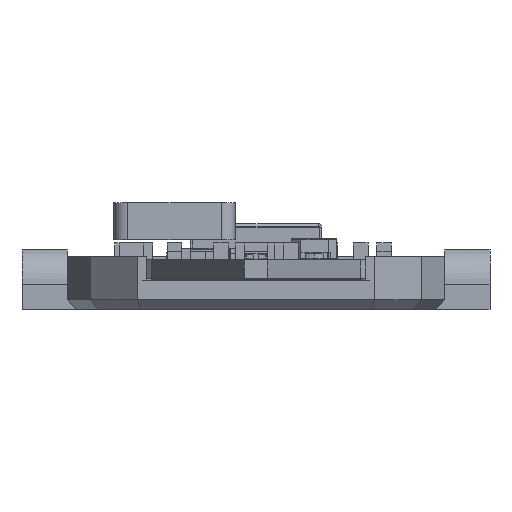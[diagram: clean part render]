
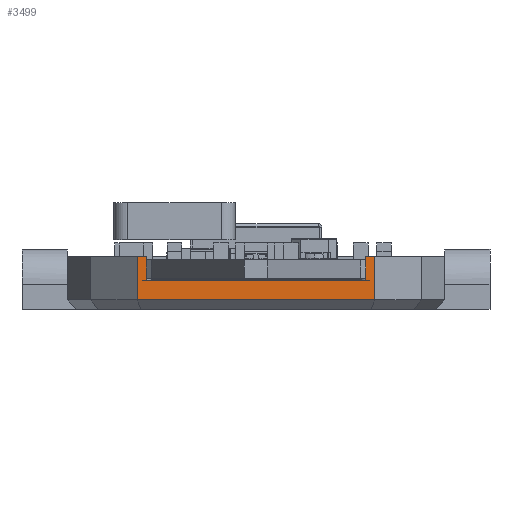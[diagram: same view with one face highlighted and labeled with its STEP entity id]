
A CAD part, front view. The second image highlights one B-rep face of the part: STEP entity #3499.
In plain terms, the highlighted planar face has unit normal (0, -1, 0).
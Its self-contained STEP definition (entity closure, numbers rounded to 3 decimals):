
#380 = PLANE('',#381);
#381 = AXIS2_PLACEMENT_3D('',#382,#383,#384);
#382 = CARTESIAN_POINT('',(-10.2,96.4,-3.85));
#383 = DIRECTION('',(0.,-0.707,-0.707
    ));
#384 = DIRECTION('',(-1.,0.,0.));
#1834 = VERTEX_POINT('',#1835);
#1835 = CARTESIAN_POINT('',(-10.2,96.,-3.45));
#1849 = PLANE('',#1850);
#1850 = AXIS2_PLACEMENT_3D('',#1851,#1852,#1853);
#1851 = CARTESIAN_POINT('',(-14.2,100.,-4.25));
#1852 = DIRECTION('',(0.707,0.707,-0.));
#1853 = DIRECTION('',(0.707,-0.707,0.));
#1887 = EDGE_CURVE('',#1834,#1888,#1890,.T.);
#1888 = VERTEX_POINT('',#1889);
#1889 = CARTESIAN_POINT('',(10.2,96.,-3.45));
#1890 = SURFACE_CURVE('',#1891,(#1895,#1902),.PCURVE_S1.);
#1891 = LINE('',#1892,#1893);
#1892 = CARTESIAN_POINT('',(-10.2,96.,-3.45));
#1893 = VECTOR('',#1894,1.);
#1894 = DIRECTION('',(1.,0.,0.));
#1895 = PCURVE('',#380,#1896);
#1896 = DEFINITIONAL_REPRESENTATION('',(#1897),#1901);
#1897 = LINE('',#1898,#1899);
#1898 = CARTESIAN_POINT('',(-0.,-0.566));
#1899 = VECTOR('',#1900,1.);
#1900 = DIRECTION('',(-1.,0.));
#1901 = ( GEOMETRIC_REPRESENTATION_CONTEXT(2) 
PARAMETRIC_REPRESENTATION_CONTEXT() REPRESENTATION_CONTEXT('2D SPACE',''
  ) );
#1902 = PCURVE('',#1903,#1908);
#1903 = PLANE('',#1904);
#1904 = AXIS2_PLACEMENT_3D('',#1905,#1906,#1907);
#1905 = CARTESIAN_POINT('',(-10.2,96.,-4.25));
#1906 = DIRECTION('',(0.,1.,0.));
#1907 = DIRECTION('',(1.,0.,0.));
#1908 = DEFINITIONAL_REPRESENTATION('',(#1909),#1913);
#1909 = LINE('',#1910,#1911);
#1910 = CARTESIAN_POINT('',(0.,-0.8));
#1911 = VECTOR('',#1912,1.);
#1912 = DIRECTION('',(1.,0.));
#1913 = ( GEOMETRIC_REPRESENTATION_CONTEXT(2) 
PARAMETRIC_REPRESENTATION_CONTEXT() REPRESENTATION_CONTEXT('2D SPACE',''
  ) );
#1957 = PLANE('',#1958);
#1958 = AXIS2_PLACEMENT_3D('',#1959,#1960,#1961);
#1959 = CARTESIAN_POINT('',(10.2,96.,-4.25));
#1960 = DIRECTION('',(-0.707,0.707,0.));
#1961 = DIRECTION('',(0.707,0.707,0.));
#2945 = PLANE('',#2946);
#2946 = AXIS2_PLACEMENT_3D('',#2947,#2948,#2949);
#2947 = CARTESIAN_POINT('',(0.,121.255,0.25));
#2948 = DIRECTION('',(0.,0.,1.));
#2949 = DIRECTION('',(1.,0.,-0.));
#3456 = VERTEX_POINT('',#3457);
#3457 = CARTESIAN_POINT('',(-10.2,96.,0.25));
#3478 = EDGE_CURVE('',#1834,#3456,#3479,.T.);
#3479 = SURFACE_CURVE('',#3480,(#3484,#3491),.PCURVE_S1.);
#3480 = LINE('',#3481,#3482);
#3481 = CARTESIAN_POINT('',(-10.2,96.,-4.25));
#3482 = VECTOR('',#3483,1.);
#3483 = DIRECTION('',(0.,0.,1.));
#3484 = PCURVE('',#1849,#3485);
#3485 = DEFINITIONAL_REPRESENTATION('',(#3486),#3490);
#3486 = LINE('',#3487,#3488);
#3487 = CARTESIAN_POINT('',(5.657,0.));
#3488 = VECTOR('',#3489,1.);
#3489 = DIRECTION('',(0.,-1.));
#3490 = ( GEOMETRIC_REPRESENTATION_CONTEXT(2) 
PARAMETRIC_REPRESENTATION_CONTEXT() REPRESENTATION_CONTEXT('2D SPACE',''
  ) );
#3491 = PCURVE('',#1903,#3492);
#3492 = DEFINITIONAL_REPRESENTATION('',(#3493),#3497);
#3493 = LINE('',#3494,#3495);
#3494 = CARTESIAN_POINT('',(0.,0.));
#3495 = VECTOR('',#3496,1.);
#3496 = DIRECTION('',(0.,-1.));
#3497 = ( GEOMETRIC_REPRESENTATION_CONTEXT(2) 
PARAMETRIC_REPRESENTATION_CONTEXT() REPRESENTATION_CONTEXT('2D SPACE',''
  ) );
#3499 = ADVANCED_FACE('',(#3500),#1903,.F.);
#3500 = FACE_BOUND('',#3501,.F.);
#3501 = EDGE_LOOP('',(#3502,#3503,#3504,#3527,#3553,#3579,#3605,#3628));
#3502 = ORIENTED_EDGE('',*,*,#1887,.F.);
#3503 = ORIENTED_EDGE('',*,*,#3478,.T.);
#3504 = ORIENTED_EDGE('',*,*,#3505,.T.);
#3505 = EDGE_CURVE('',#3456,#3506,#3508,.T.);
#3506 = VERTEX_POINT('',#3507);
#3507 = CARTESIAN_POINT('',(-9.417,96.,0.25));
#3508 = SURFACE_CURVE('',#3509,(#3513,#3520),.PCURVE_S1.);
#3509 = LINE('',#3510,#3511);
#3510 = CARTESIAN_POINT('',(-10.2,96.,0.25));
#3511 = VECTOR('',#3512,1.);
#3512 = DIRECTION('',(1.,0.,0.));
#3513 = PCURVE('',#1903,#3514);
#3514 = DEFINITIONAL_REPRESENTATION('',(#3515),#3519);
#3515 = LINE('',#3516,#3517);
#3516 = CARTESIAN_POINT('',(0.,-4.5));
#3517 = VECTOR('',#3518,1.);
#3518 = DIRECTION('',(1.,0.));
#3519 = ( GEOMETRIC_REPRESENTATION_CONTEXT(2) 
PARAMETRIC_REPRESENTATION_CONTEXT() REPRESENTATION_CONTEXT('2D SPACE',''
  ) );
#3520 = PCURVE('',#2945,#3521);
#3521 = DEFINITIONAL_REPRESENTATION('',(#3522),#3526);
#3522 = LINE('',#3523,#3524);
#3523 = CARTESIAN_POINT('',(-10.2,-25.255));
#3524 = VECTOR('',#3525,1.);
#3525 = DIRECTION('',(1.,0.));
#3526 = ( GEOMETRIC_REPRESENTATION_CONTEXT(2) 
PARAMETRIC_REPRESENTATION_CONTEXT() REPRESENTATION_CONTEXT('2D SPACE',''
  ) );
#3527 = ORIENTED_EDGE('',*,*,#3528,.T.);
#3528 = EDGE_CURVE('',#3506,#3529,#3531,.T.);
#3529 = VERTEX_POINT('',#3530);
#3530 = CARTESIAN_POINT('',(-9.417,96.,-1.75));
#3531 = SURFACE_CURVE('',#3532,(#3536,#3542),.PCURVE_S1.);
#3532 = LINE('',#3533,#3534);
#3533 = CARTESIAN_POINT('',(-9.417,96.,-3.));
#3534 = VECTOR('',#3535,1.);
#3535 = DIRECTION('',(-0.,0.,-1.));
#3536 = PCURVE('',#1903,#3537);
#3537 = DEFINITIONAL_REPRESENTATION('',(#3538),#3541);
#3538 = B_SPLINE_CURVE_WITH_KNOTS('',1,(#3539,#3540),.UNSPECIFIED.,.F.,
  .F.,(2,2),(-3.25,-1.25),.PIECEWISE_BEZIER_KNOTS.);
#3539 = CARTESIAN_POINT('',(0.783,-4.5));
#3540 = CARTESIAN_POINT('',(0.783,-2.5));
#3541 = ( GEOMETRIC_REPRESENTATION_CONTEXT(2) 
PARAMETRIC_REPRESENTATION_CONTEXT() REPRESENTATION_CONTEXT('2D SPACE',''
  ) );
#3542 = PCURVE('',#3543,#3548);
#3543 = PLANE('',#3544);
#3544 = AXIS2_PLACEMENT_3D('',#3545,#3546,#3547);
#3545 = CARTESIAN_POINT('',(-13.25,101.75,-1.75));
#3546 = DIRECTION('',(0.832,0.555,-0.));
#3547 = DIRECTION('',(0.555,-0.832,0.));
#3548 = DEFINITIONAL_REPRESENTATION('',(#3549),#3552);
#3549 = B_SPLINE_CURVE_WITH_KNOTS('',1,(#3550,#3551),.UNSPECIFIED.,.F.,
  .F.,(2,2),(-3.25,-1.25),.PIECEWISE_BEZIER_KNOTS.);
#3550 = CARTESIAN_POINT('',(6.911,-2.));
#3551 = CARTESIAN_POINT('',(6.911,0.));
#3552 = ( GEOMETRIC_REPRESENTATION_CONTEXT(2) 
PARAMETRIC_REPRESENTATION_CONTEXT() REPRESENTATION_CONTEXT('2D SPACE',''
  ) );
#3553 = ORIENTED_EDGE('',*,*,#3554,.T.);
#3554 = EDGE_CURVE('',#3529,#3555,#3557,.T.);
#3555 = VERTEX_POINT('',#3556);
#3556 = CARTESIAN_POINT('',(9.417,96.,-1.75));
#3557 = SURFACE_CURVE('',#3558,(#3562,#3568),.PCURVE_S1.);
#3558 = LINE('',#3559,#3560);
#3559 = CARTESIAN_POINT('',(-5.1,96.,-1.75));
#3560 = VECTOR('',#3561,1.);
#3561 = DIRECTION('',(1.,0.,0.));
#3562 = PCURVE('',#1903,#3563);
#3563 = DEFINITIONAL_REPRESENTATION('',(#3564),#3567);
#3564 = B_SPLINE_CURVE_WITH_KNOTS('',1,(#3565,#3566),.UNSPECIFIED.,.F.,
  .F.,(2,2),(-5.1,15.3),.PIECEWISE_BEZIER_KNOTS.);
#3565 = CARTESIAN_POINT('',(0.,-2.5));
#3566 = CARTESIAN_POINT('',(20.4,-2.5));
#3567 = ( GEOMETRIC_REPRESENTATION_CONTEXT(2) 
PARAMETRIC_REPRESENTATION_CONTEXT() REPRESENTATION_CONTEXT('2D SPACE',''
  ) );
#3568 = PCURVE('',#3569,#3574);
#3569 = PLANE('',#3570);
#3570 = AXIS2_PLACEMENT_3D('',#3571,#3572,#3573);
#3571 = CARTESIAN_POINT('',(0.,120.66,-1.75));
#3572 = DIRECTION('',(0.,0.,1.));
#3573 = DIRECTION('',(1.,0.,-0.));
#3574 = DEFINITIONAL_REPRESENTATION('',(#3575),#3578);
#3575 = B_SPLINE_CURVE_WITH_KNOTS('',1,(#3576,#3577),.UNSPECIFIED.,.F.,
  .F.,(2,2),(-5.1,15.3),.PIECEWISE_BEZIER_KNOTS.);
#3576 = CARTESIAN_POINT('',(-10.2,-24.66));
#3577 = CARTESIAN_POINT('',(10.2,-24.66));
#3578 = ( GEOMETRIC_REPRESENTATION_CONTEXT(2) 
PARAMETRIC_REPRESENTATION_CONTEXT() REPRESENTATION_CONTEXT('2D SPACE',''
  ) );
#3579 = ORIENTED_EDGE('',*,*,#3580,.T.);
#3580 = EDGE_CURVE('',#3555,#3581,#3583,.T.);
#3581 = VERTEX_POINT('',#3582);
#3582 = CARTESIAN_POINT('',(9.417,96.,0.25));
#3583 = SURFACE_CURVE('',#3584,(#3588,#3594),.PCURVE_S1.);
#3584 = LINE('',#3585,#3586);
#3585 = CARTESIAN_POINT('',(9.417,96.,-3.));
#3586 = VECTOR('',#3587,1.);
#3587 = DIRECTION('',(0.,-0.,1.));
#3588 = PCURVE('',#1903,#3589);
#3589 = DEFINITIONAL_REPRESENTATION('',(#3590),#3593);
#3590 = B_SPLINE_CURVE_WITH_KNOTS('',1,(#3591,#3592),.UNSPECIFIED.,.F.,
  .F.,(2,2),(1.25,3.25),.PIECEWISE_BEZIER_KNOTS.);
#3591 = CARTESIAN_POINT('',(19.617,-2.5));
#3592 = CARTESIAN_POINT('',(19.617,-4.5));
#3593 = ( GEOMETRIC_REPRESENTATION_CONTEXT(2) 
PARAMETRIC_REPRESENTATION_CONTEXT() REPRESENTATION_CONTEXT('2D SPACE',''
  ) );
#3594 = PCURVE('',#3595,#3600);
#3595 = PLANE('',#3596);
#3596 = AXIS2_PLACEMENT_3D('',#3597,#3598,#3599);
#3597 = CARTESIAN_POINT('',(9.25,95.75,-1.75));
#3598 = DIRECTION('',(-0.832,0.555,0.));
#3599 = DIRECTION('',(0.555,0.832,0.));
#3600 = DEFINITIONAL_REPRESENTATION('',(#3601),#3604);
#3601 = B_SPLINE_CURVE_WITH_KNOTS('',1,(#3602,#3603),.UNSPECIFIED.,.F.,
  .F.,(2,2),(1.25,3.25),.PIECEWISE_BEZIER_KNOTS.);
#3602 = CARTESIAN_POINT('',(0.3,0.));
#3603 = CARTESIAN_POINT('',(0.3,-2.));
#3604 = ( GEOMETRIC_REPRESENTATION_CONTEXT(2) 
PARAMETRIC_REPRESENTATION_CONTEXT() REPRESENTATION_CONTEXT('2D SPACE',''
  ) );
#3605 = ORIENTED_EDGE('',*,*,#3606,.T.);
#3606 = EDGE_CURVE('',#3581,#3607,#3609,.T.);
#3607 = VERTEX_POINT('',#3608);
#3608 = CARTESIAN_POINT('',(10.2,96.,0.25));
#3609 = SURFACE_CURVE('',#3610,(#3614,#3621),.PCURVE_S1.);
#3610 = LINE('',#3611,#3612);
#3611 = CARTESIAN_POINT('',(-10.2,96.,0.25));
#3612 = VECTOR('',#3613,1.);
#3613 = DIRECTION('',(1.,0.,0.));
#3614 = PCURVE('',#1903,#3615);
#3615 = DEFINITIONAL_REPRESENTATION('',(#3616),#3620);
#3616 = LINE('',#3617,#3618);
#3617 = CARTESIAN_POINT('',(0.,-4.5));
#3618 = VECTOR('',#3619,1.);
#3619 = DIRECTION('',(1.,0.));
#3620 = ( GEOMETRIC_REPRESENTATION_CONTEXT(2) 
PARAMETRIC_REPRESENTATION_CONTEXT() REPRESENTATION_CONTEXT('2D SPACE',''
  ) );
#3621 = PCURVE('',#2945,#3622);
#3622 = DEFINITIONAL_REPRESENTATION('',(#3623),#3627);
#3623 = LINE('',#3624,#3625);
#3624 = CARTESIAN_POINT('',(-10.2,-25.255));
#3625 = VECTOR('',#3626,1.);
#3626 = DIRECTION('',(1.,0.));
#3627 = ( GEOMETRIC_REPRESENTATION_CONTEXT(2) 
PARAMETRIC_REPRESENTATION_CONTEXT() REPRESENTATION_CONTEXT('2D SPACE',''
  ) );
#3628 = ORIENTED_EDGE('',*,*,#3629,.F.);
#3629 = EDGE_CURVE('',#1888,#3607,#3630,.T.);
#3630 = SURFACE_CURVE('',#3631,(#3635,#3642),.PCURVE_S1.);
#3631 = LINE('',#3632,#3633);
#3632 = CARTESIAN_POINT('',(10.2,96.,-4.25));
#3633 = VECTOR('',#3634,1.);
#3634 = DIRECTION('',(0.,0.,1.));
#3635 = PCURVE('',#1903,#3636);
#3636 = DEFINITIONAL_REPRESENTATION('',(#3637),#3641);
#3637 = LINE('',#3638,#3639);
#3638 = CARTESIAN_POINT('',(20.4,0.));
#3639 = VECTOR('',#3640,1.);
#3640 = DIRECTION('',(0.,-1.));
#3641 = ( GEOMETRIC_REPRESENTATION_CONTEXT(2) 
PARAMETRIC_REPRESENTATION_CONTEXT() REPRESENTATION_CONTEXT('2D SPACE',''
  ) );
#3642 = PCURVE('',#1957,#3643);
#3643 = DEFINITIONAL_REPRESENTATION('',(#3644),#3648);
#3644 = LINE('',#3645,#3646);
#3645 = CARTESIAN_POINT('',(0.,0.));
#3646 = VECTOR('',#3647,1.);
#3647 = DIRECTION('',(0.,-1.));
#3648 = ( GEOMETRIC_REPRESENTATION_CONTEXT(2) 
PARAMETRIC_REPRESENTATION_CONTEXT() REPRESENTATION_CONTEXT('2D SPACE',''
  ) );
